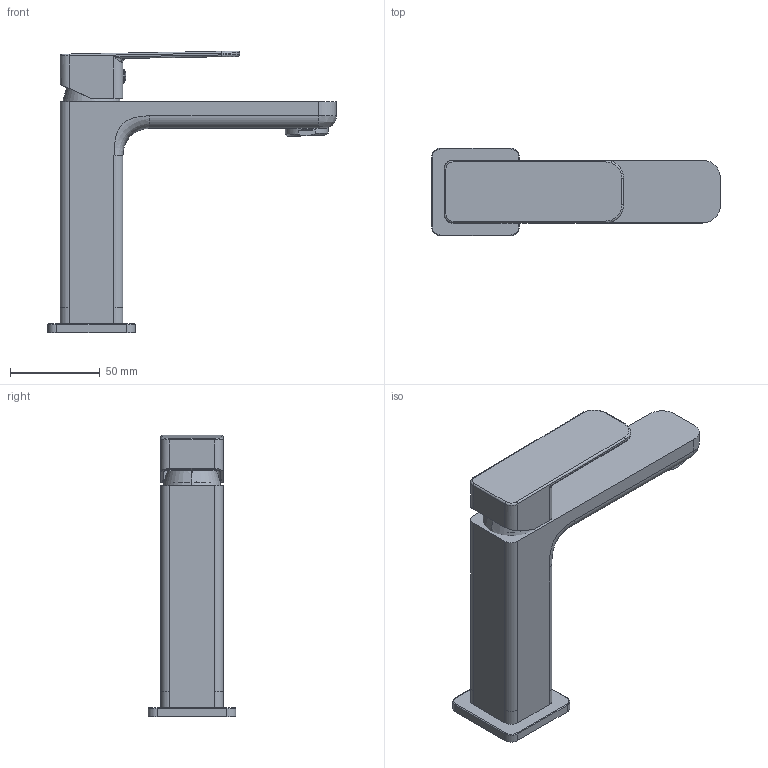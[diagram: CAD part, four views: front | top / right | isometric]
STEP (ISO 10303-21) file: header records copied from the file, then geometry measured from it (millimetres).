
FILE_DESCRIPTION((''),'2;1');
FILE_NAME('153832801OLT_ASM','2025-02-10T10:47:50',('tec19'),(''),'CREO PARAMETRIC BY PTC INC, 2018260','CREO PARAMETRIC BY PTC INC, 2018260','');
FILE_SCHEMA(('CONFIG_CONTROL_DESIGN'));
Length unit declared in the file: millimetre
Products named in the file (18): 201436380126_1; 204011839901_1_1; 204011839901_1_2; 204011839901_1_ASM; 205022640105_1; 205055390726_1; 207010140601_1; 203101800701_1; 203010850126_1; 206063650226_1; 208000910601_1; 202011890226_1; 205010171601_1; 202030410726_1; 206014839901_1_ASM; 206014849901_1_ASM; 153832801OLT_ASM_2_ASM; 153832801OLT_ASM
Assembly tree (17 placements, depth 4):
  153832801OLT_ASM
    153832801OLT_ASM_2_ASM
      201436380126_1
      204011839901_1_ASM
        204011839901_1_1
        204011839901_1_2
      205022640105_1
      205055390726_1
      207010140601_1
      203101800701_1
      203010850126_1
      206063650226_1
      208000910601_1
      202011890226_1
      205010171601_1
      202030410726_1
      206014839901_1_ASM
      206014849901_1_ASM
Bounding box: 161 x 49 x 157.12 mm (x, y, z)
Volume: 217512 mm3; surface area: 75774.5 mm2
Topology: 13 solids, 23 shells, 1067 faces, 2888 edges, 1897 vertices
Faces by surface type: plane 652, cylinder 245, bspline 57, torus 53, cone 52, sphere 8
Entity records: 40507 total; most frequent: CARTESIAN_POINT 13289, ORIENTED_EDGE 5718, DIRECTION 5437, EDGE_CURVE 2879, VECTOR 1923, LINE 1923, VERTEX_POINT 1897, AXIS2_PLACEMENT_3D 1757
